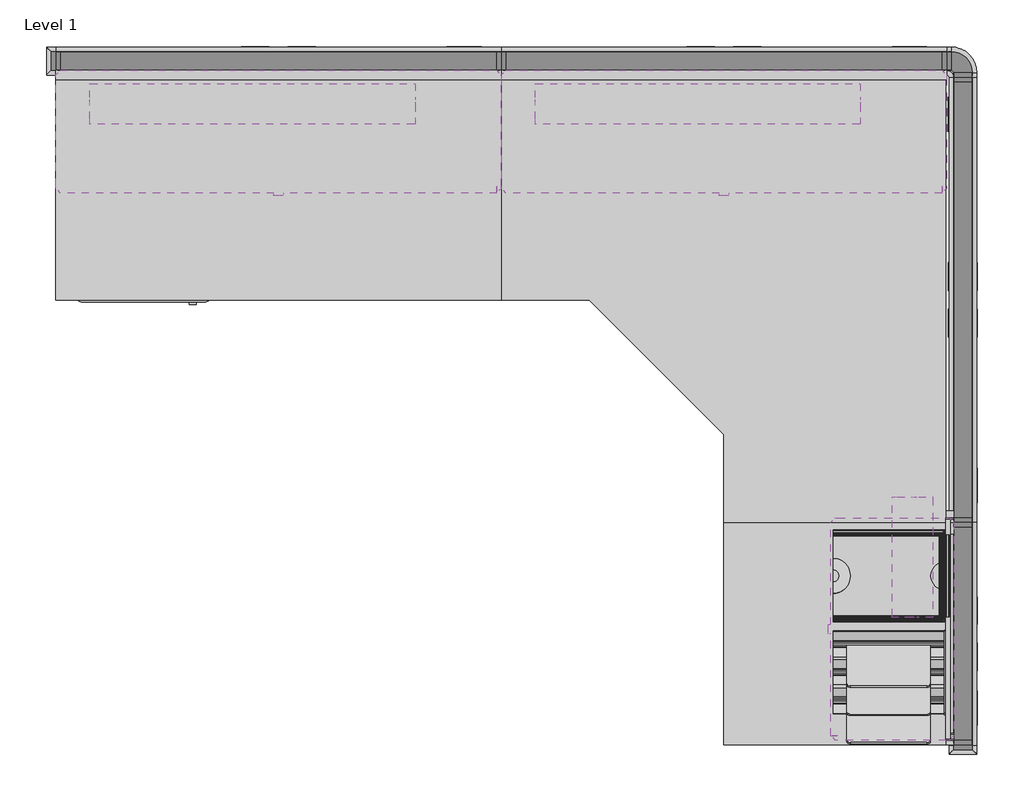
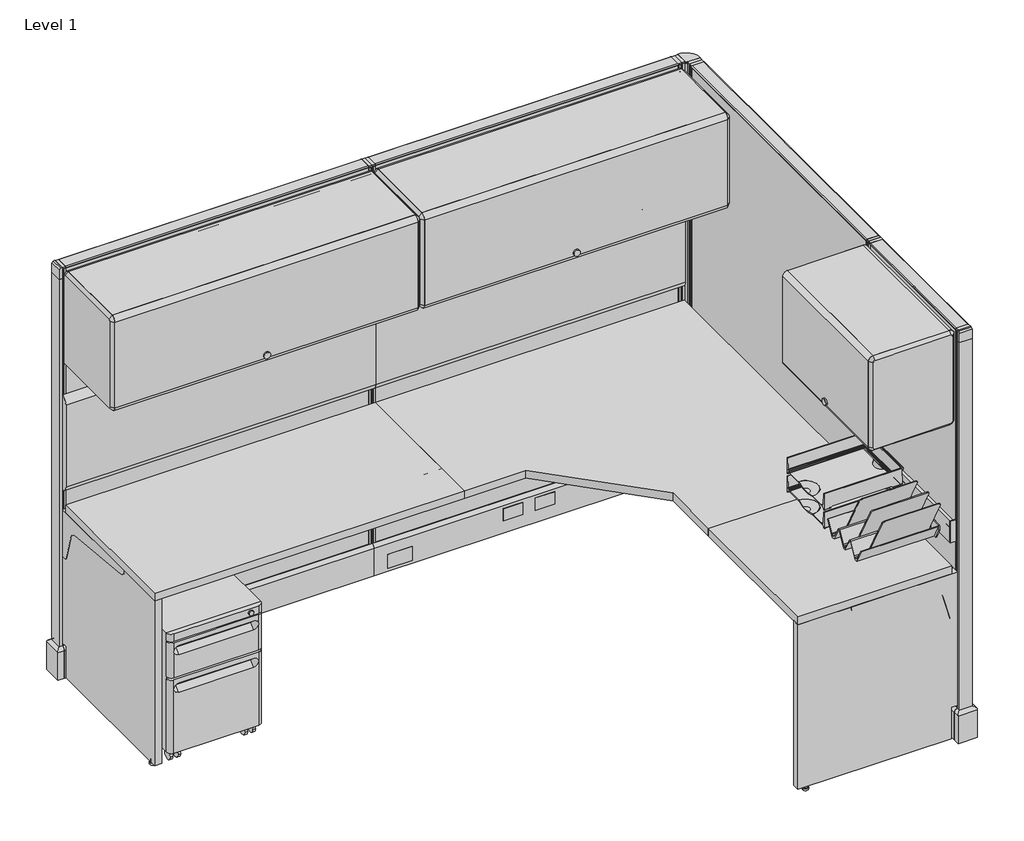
# One storey, incomplete: 22 furniture elements, 3 light fixtures.
"""IFC4 building model written with IfcOpenShell, lengths in millimetres."""

from ifc_helpers import new_model, si_unit, origin, place, context, project, spatial, transform, mapped, element, save
from components import furniture_75fc3fe0, furniture_a2665887, furniture_f058e72c, furniture_b123b550, furniture_cb78dd66, furniture_083a197f, furniture_db9437f5, furniture_d4c6b201, furniture_6098a880, furniture_6a59721d, furniture_f221023d, furniture_98713a82, furniture_84c54a78, furniture_b7c7402d, furniture_5c2546f9, furniture_ba981915, light_fixture_5a12cc18, light_fixture_0c34e72c

model = new_model("IFC4")

# Units and contexts
model_context = context("Model", 3, world=origin())
ifc_project = project(units=[si_unit("LENGTHUNIT", "METRE", prefix="MILLI")], contexts=[model_context])

# Site, building, storey
site = spatial("IfcSite", under=ifc_project)
building = spatial("IfcBuilding", under=site)
storey = spatial("IfcBuildingStorey", under=building, Name="Level 1", Elevation=0.0)

# Furniture
placement = place(None, origin())
furniture_shape = furniture_75fc3fe0(model_context)
element("IfcFurniture", 1, ObjectType="HermanMiller_ThrivePortfolio_Y7218_DiagonalTray : 8 1/2\"H x 12\"D x 13\"W", at=placement, inside=storey, context=model_context, shape_type="MappedRepresentation", body=[
    mapped(furniture_shape, transform((2281.20448, -1712.566817, 0.0), x_axis=(0.0, -1.0, 0.0), y_axis=(1.0, 0.0, 0.0), z_axis=(0.0, 0.0, 1.0))),
])
furniture_2_shape = furniture_a2665887(model_context)
element("IfcFurniture", 2, ObjectType="HermanMiller_ThrivePortfolio_Y7216_PaperTray : 3\"H x 12\"D x 10\"W", at=placement, inside=storey, context=model_context, shape_type="MappedRepresentation", body=[
    mapped(furniture_2_shape, transform((2281.20448, -1447.9524, 0.0), x_axis=(0.0, -1.0, 0.0), y_axis=(1.0, 0.0, 0.0), z_axis=(0.0, 0.0, 1.0))),
])
furniture_3_shape = furniture_f058e72c(model_context)
element("IfcFurniture", 3, ObjectType="HermanMiller_ThrivePortfolio_Y7216_PaperTray : 3\"H x 12\"D x 10\"W", at=placement, inside=storey, context=model_context, shape_type="MappedRepresentation", body=[
    mapped(furniture_3_shape, transform((2281.20448, -1447.9524, 0.0), x_axis=(0.0, -1.0, 0.0), y_axis=(1.0, 0.0, 0.0), z_axis=(0.0, 0.0, 1.0))),
])
furniture_4_shape = furniture_b123b550(model_context)
element("IfcFurniture", 4, ObjectType="HermanMiller_ActionOffice_A3352_B-StyleFlipperDoorUnit : 15 1/2\"H x 13\"D x 24\"W", at=placement, inside=storey, context=model_context, shape_type="MappedRepresentation", body=[
    mapped(furniture_4_shape, transform((2276.475, -1593.85, 0.0), x_axis=(0.0, -1.0, 0.0), y_axis=(1.0, 0.0, 0.0), z_axis=(0.0, 0.0, 1.0))),
])
furniture_5_shape = furniture_cb78dd66(model_context)
element("IfcFurniture", 5, ObjectType="HermanMiller_ActionOffice_A3410_B-StyleTackboard : 16\"H x 48\"W", at=placement, inside=storey, context=model_context, shape_type="MappedRepresentation", body=[
    mapped(furniture_5_shape, transform((1828.8, -76.2, 0.0), x_axis=(1.0, 0.0, 0.0), y_axis=(0.0, 1.0, 0.0), z_axis=(0.0, 0.0, 1.0))),
])
element("IfcFurniture", 6, ObjectType="HermanMiller_ActionOffice_A3410_B-StyleTackboard : 16\"H x 48\"W", at=placement, inside=storey, context=model_context, shape_type="MappedRepresentation", body=[
    mapped(furniture_5_shape, transform((609.6, -76.2, 0.0), x_axis=(1.0, 0.0, 0.0), y_axis=(0.0, 1.0, 0.0), z_axis=(0.0, 0.0, 1.0))),
])
furniture_6_shape = furniture_083a197f(model_context)
element("IfcFurniture", 7, ObjectType="HermanMiller_ActionOffice_A2310_Sq-EdgeRectangularWorkSurface : 24\"D x 48\"W", at=placement, inside=storey, context=model_context, shape_type="MappedRepresentation", body=[
    mapped(furniture_6_shape, transform((609.6, -377.825, 0.0), x_axis=(1.0, 0.0, 0.0), y_axis=(0.0, 1.0, 0.0), z_axis=(0.0, 0.0, 1.0))),
])
furniture_7_shape = furniture_db9437f5(model_context)
element("IfcFurniture", 8, ObjectType="HermanMiller_ActionOffice_A2332_Sq-EdgeCornerWorkSurface : 24\"D x 48\"W", at=placement, inside=storey, context=model_context, shape_type="MappedRepresentation", body=[
    mapped(furniture_7_shape, transform((1673.225, -825.5, 0.0), x_axis=(0.0, -1.0, 0.0), y_axis=(1.0, 0.0, 0.0), z_axis=(0.0, 0.0, 1.0))),
])
furniture_8_shape = furniture_d4c6b201(model_context)
element("IfcFurniture", 9, ObjectType="HermanMiller_ActionOffice_A2310_Sq-EdgeRectangularWorkSurface : 24\"D x 24\"W", at=placement, inside=storey, context=model_context, shape_type="MappedRepresentation", body=[
    mapped(furniture_8_shape, transform((2143.125, -1606.55, 0.0), x_axis=(0.0, -1.0, 0.0), y_axis=(1.0, 0.0, 0.0), z_axis=(0.0, 0.0, 1.0))),
])
furniture_9_shape = furniture_6098a880(model_context)
element("IfcFurniture", 10, ObjectType="HermanMiller_ActionOffice_A3352_B-StyleFlipperDoorUnit : 15 1/2\"H x 13\"D x 48\"W", at=placement, inside=storey, context=model_context, shape_type="MappedRepresentation", body=[
    mapped(furniture_9_shape, transform((609.6, -244.475, 0.0), x_axis=(1.0, 0.0, 0.0), y_axis=(0.0, 1.0, 0.0), z_axis=(0.0, 0.0, 1.0))),
])
element("IfcFurniture", 11, ObjectType="HermanMiller_ActionOffice_A3352_B-StyleFlipperDoorUnit : 15 1/2\"H x 13\"D x 48\"W", at=placement, inside=storey, context=model_context, shape_type="MappedRepresentation", body=[
    mapped(furniture_9_shape, transform((1828.8, -244.475, 0.0), x_axis=(1.0, 0.0, 0.0), y_axis=(0.0, 1.0, 0.0), z_axis=(0.0, 0.0, 1.0))),
])
furniture_10_shape = furniture_6a59721d(model_context)
element("IfcFurniture", 12, ObjectType="HermanMiller_ActionOffice_A3610_ToolBar : 4\"H x 24\"W", at=placement, inside=storey, context=model_context, shape_type="MappedRepresentation", body=[
    mapped(furniture_10_shape, transform((2447.9250004, -1593.85, 0.0), x_axis=(0.0, -1.0, 0.0), y_axis=(1.0, 0.0, 0.0), z_axis=(0.0, 0.0, 1.0))),
])
furniture_11_shape = furniture_f221023d(model_context)
element("IfcFurniture", 13, ObjectType="HermanMiller_ActionOffice_A1110_Hard-SurfacedPanelStandardBase : 67\"H x 48\"W-G", at=placement, inside=storey, context=model_context, shape_type="MappedRepresentation", body=[
    mapped(furniture_11_shape, transform((609.6, -38.1, 0.0), x_axis=(1.0, 0.0, 0.0), y_axis=(0.0, 1.0, 0.0), z_axis=(0.0, 0.0, 1.0))),
])
element("IfcFurniture", 14, ObjectType="HermanMiller_ActionOffice_A1110_Hard-SurfacedPanelStandardBase : 67\"H x 48\"W-G", at=placement, inside=storey, context=model_context, shape_type="MappedRepresentation", body=[
    mapped(furniture_11_shape, transform((1828.8, -38.1, 0.0), x_axis=(1.0, 0.0, 0.0), y_axis=(0.0, 1.0, 0.0), z_axis=(0.0, 0.0, 1.0))),
])
element("IfcFurniture", 15, ObjectType="HermanMiller_ActionOffice_A1110_Hard-SurfacedPanelStandardBase : 67\"H x 48\"W-G", at=placement, inside=storey, context=model_context, shape_type="MappedRepresentation", body=[
    mapped(furniture_11_shape, transform((2482.85, -692.15, 0.0), x_axis=(0.0, -1.0, 0.0), y_axis=(1.0, 0.0, 0.0), z_axis=(0.0, 0.0, 1.0))),
])
furniture_12_shape = furniture_98713a82(model_context)
element("IfcFurniture", 16, ObjectType="HermanMiller_ActionOffice_A1110_Hard-SurfacedPanelStandardBase : 67\"H x 24\"W-G", at=placement, inside=storey, context=model_context, shape_type="MappedRepresentation", body=[
    mapped(furniture_12_shape, transform((2482.85, -1606.55, 0.0), x_axis=(0.0, -1.0, 0.0), y_axis=(1.0, 0.0, 0.0), z_axis=(0.0, 0.0, 1.0))),
])
furniture_13_shape = furniture_84c54a78(model_context)
element("IfcFurniture", 17, ObjectType="HermanMiller_QuadrantFiling_G5111_MobilePedestal : 21-1/2\"H x 20\"D x 15\"W BF", at=placement, inside=storey, context=model_context, shape_type="MappedRepresentation", body=[
    mapped(furniture_13_shape, transform((239.44326, -434.832763, 0.0), x_axis=(1.0, 0.0, 0.0), y_axis=(0.0, 1.0, 0.0), z_axis=(0.0, 0.0, 1.0))),
])
furniture_14_shape = furniture_b7c7402d(model_context)
element("IfcFurniture", 18, ObjectType="HermanMiller_ActionOffice_A2380_WorkSuraceSupportPanelEnd : 24\"D", at=placement, inside=storey, context=model_context, shape_type="MappedRepresentation", body=[
    mapped(furniture_14_shape, transform((1828.8, -1882.775, 0.0), x_axis=(0.0, -1.0, 0.0), y_axis=(1.0, 0.0, 0.0), z_axis=(0.0, 0.0, 1.0))),
])
element("IfcFurniture", 19, ObjectType="HermanMiller_ActionOffice_A2380_WorkSuraceSupportPanelEnd : 24\"D", at=placement, inside=storey, context=model_context, shape_type="MappedRepresentation", body=[
    mapped(furniture_14_shape, transform((0.0, -692.15, 0.0), x_axis=(1.0, 0.0, 0.0), y_axis=(0.0, 1.0, 0.0), z_axis=(0.0, 0.0, 1.0))),
])
furniture_15_shape = furniture_5c2546f9(model_context)
element("IfcFurniture", 20, ObjectType="HermanMiller_ActionOffice_A1271_FinishedEndStandardBase : 67\"H", at=placement, inside=storey, context=model_context, shape_type="MappedRepresentation", body=[
    mapped(furniture_15_shape, transform((4931.5887877, 73.5060512, 0.0), x_axis=(0.0, -1.0, 0.0), y_axis=(1.0, 0.0, 0.0), z_axis=(0.0, 0.0, 1.0))),
])
element("IfcFurniture", 21, ObjectType="HermanMiller_ActionOffice_A1271_FinishedEndStandardBase : 67\"H", at=placement, inside=storey, context=model_context, shape_type="MappedRepresentation", body=[
    mapped(furniture_15_shape, transform((1984.8560512, -2486.8387877, 0.0), x_axis=(-1.0, 0.0, 0.0), y_axis=(0.0, -1.0, 0.0), z_axis=(0.0, 0.0, 1.0))),
])
furniture_16_shape = furniture_ba981915(model_context)
element("IfcFurniture", 22, ObjectType="HermanMiller_ActionOffice_A1220_90ConnectorStandardBase : 67\"H 2-Way-Hard", at=placement, inside=storey, context=model_context, shape_type="MappedRepresentation", body=[
    mapped(furniture_16_shape, transform((2476.5, -52.6139414, 0.0), x_axis=(1.0, 0.0, 0.0), y_axis=(0.0, 1.0, 0.0), z_axis=(0.0, 0.0, 1.0))),
])

# Light fixtures
light_fixture_shape = light_fixture_5a12cc18(model_context)
element("IfcLightFixture", 23, ObjectType="HermanMiller_SupplementalProducts_G6136_UtilityTaskLight : AO Etho Canvas 42W", at=placement, inside=storey, context=model_context, shape_type="MappedRepresentation", body=[
    mapped(light_fixture_shape, transform((537.718, -155.575, 0.0), x_axis=(1.0, 0.0, 0.0), y_axis=(0.0, 1.0, 0.0), z_axis=(0.0, 0.0, 1.0))),
])
element("IfcLightFixture", 24, ObjectType="HermanMiller_SupplementalProducts_G6136_UtilityTaskLight : AO Etho Canvas 42W", at=placement, inside=storey, context=model_context, shape_type="MappedRepresentation", body=[
    mapped(light_fixture_shape, transform((1756.918, -155.575, 0.0), x_axis=(1.0, 0.0, 0.0), y_axis=(0.0, 1.0, 0.0), z_axis=(0.0, 0.0, 1.0))),
])
light_fixture_2_shape = light_fixture_0c34e72c(model_context)
element("IfcLightFixture", 25, ObjectType="HermanMiller_SupplementalProducts_G6136_UtilityTaskLight : AO Etho Canvas 24W", at=placement, inside=storey, context=model_context, shape_type="MappedRepresentation", body=[
    mapped(light_fixture_2_shape, transform((2344.7375, -1396.90602, 0.0), x_axis=(0.0, -1.0, 0.0), y_axis=(1.0, 0.0, 0.0), z_axis=(0.0, 0.0, 1.0))),
])

save(model, "model.ifc")
